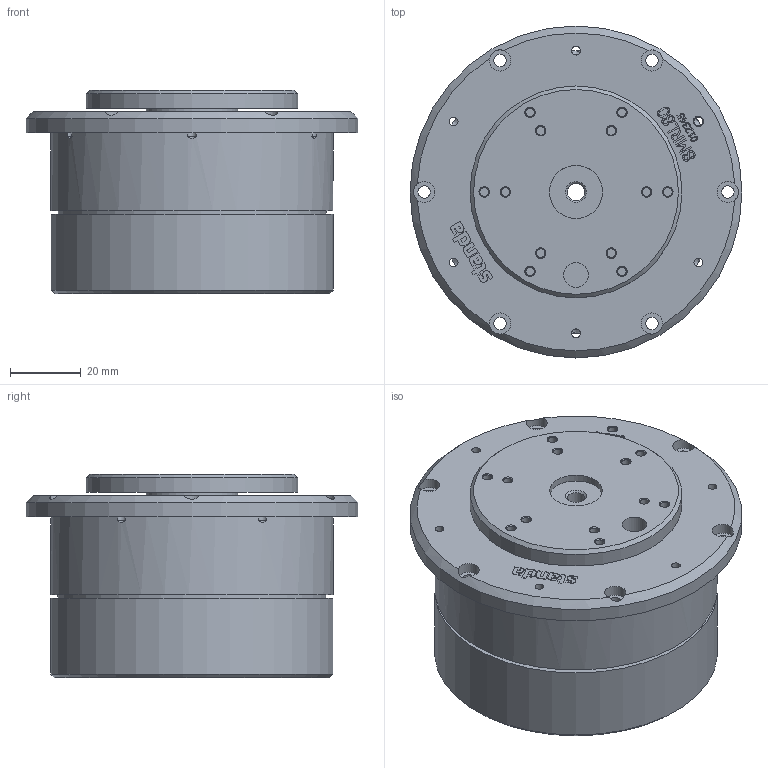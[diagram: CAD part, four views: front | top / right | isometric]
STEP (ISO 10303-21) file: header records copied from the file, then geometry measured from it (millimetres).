
FILE_DESCRIPTION(/* description */ (''),/* implementation_level */ '2;1');
FILE_NAME(/* name */ 'U:\KONSTRUKTORIAI\DOKUMENTACIJA\8\8MRL ser\8MRL80\STEP\8MRL80 SB.stp',/* time_stamp */ '2021-03-16T10:10:16+02:00',/* author */ ('dsgn36'),/* organization */ (''),/* preprocessor_version */ 'ST-DEVELOPER v15.2',/* originating_system */ 'Autodesk Inventor 2014',/* authorisation */ '');
FILE_SCHEMA (('CONFIG_CONTROL_DESIGN'));
Length unit declared in the file: millimetre
Products named in the file (2): Part3; 8MRL80 SB
Bounding box: 94 x 94 x 57.5 mm (x, y, z)
Volume: 279521 mm3; surface area: 35667.6 mm2
Topology: 1 solids, 1 shells, 428 faces, 1189 edges, 789 vertices
Faces by surface type: plane 214, bspline 113, cylinder 67, cone 28, torus 6
Full cylindrical faces by diameter (mm): 2.459 x18, 3.5 x6, 4.917 x1, 5 x1, 6 x6, 7 x1, 15 x1, 26 x1, 60 x1, 80 x1, 94 x1
Entity records: 14048 total; most frequent: CARTESIAN_POINT 4090, ORIENTED_EDGE 2186, DIRECTION 1651, EDGE_CURVE 1093, VERTEX_POINT 758, LINE 639, VECTOR 639, EDGE_LOOP 571
